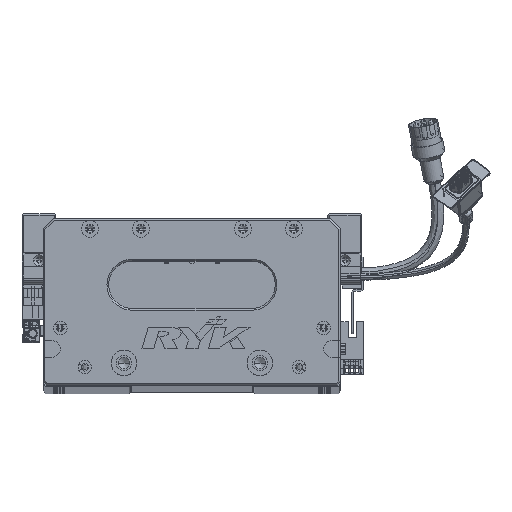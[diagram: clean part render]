
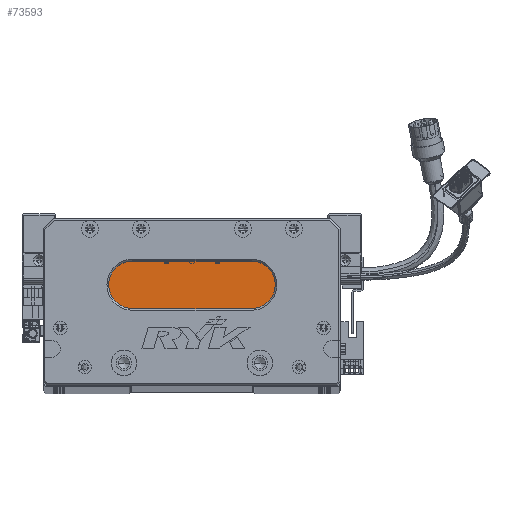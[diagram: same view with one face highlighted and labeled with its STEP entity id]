
A CAD part, top view. The second image highlights one B-rep face of the part: STEP entity #73593.
In plain terms, the highlighted planar face has unit normal (0, 0, 1) as drawn and (0, 0, -1) by its records, which use the part's own axes.
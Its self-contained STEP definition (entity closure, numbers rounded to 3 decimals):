
#3857 = DIRECTION ( 'NONE',  ( -1., 0., 0. ) ) ;
#4700 = ORIENTED_EDGE ( 'NONE', *, *, #30183, .T. ) ;
#8963 = AXIS2_PLACEMENT_3D ( 'NONE', #84995, #112813, #47746 ) ;
#11704 = CIRCLE ( 'NONE', #8963, 14. ) ;
#12116 = ORIENTED_EDGE ( 'NONE', *, *, #97174, .T. ) ;
#15443 = CARTESIAN_POINT ( 'NONE',  ( 122.5, 73., 18. ) ) ;
#15834 = DIRECTION ( 'NONE',  ( -1., 0., 0. ) ) ;
#16743 = CARTESIAN_POINT ( 'NONE',  ( 38.5, 59., 18. ) ) ;
#20576 = DIRECTION ( 'NONE',  ( 0., 0., -1. ) ) ;
#22900 = VERTEX_POINT ( 'NONE', #98822 ) ;
#23214 = DIRECTION ( 'NONE',  ( 1., 0., 0. ) ) ;
#23599 = CARTESIAN_POINT ( 'NONE',  ( 122.5, 73., 18. ) ) ;
#30183 = EDGE_CURVE ( 'NONE', #22900, #113264, #30998, .T. ) ;
#30998 = CIRCLE ( 'NONE', #81405, 14. ) ;
#37098 = LINE ( 'NONE', #58546, #107597 ) ;
#38669 = VERTEX_POINT ( 'NONE', #15443 ) ;
#40066 = CIRCLE ( 'NONE', #64284, 14. ) ;
#43525 = FACE_OUTER_BOUND ( 'NONE', #85784, .T. ) ;
#47746 = DIRECTION ( 'NONE',  ( -1., 0., 0. ) ) ;
#49887 = ORIENTED_EDGE ( 'NONE', *, *, #75385, .T. ) ;
#58546 = CARTESIAN_POINT ( 'NONE',  ( 122.5, 45., 18. ) ) ;
#60433 = ORIENTED_EDGE ( 'NONE', *, *, #86086, .T. ) ;
#62793 = DIRECTION ( 'NONE',  ( 0., 0., -1. ) ) ;
#63199 = CARTESIAN_POINT ( 'NONE',  ( 52.5, 73., 18. ) ) ;
#63603 = CARTESIAN_POINT ( 'NONE',  ( 122.5, 59., 18. ) ) ;
#64284 = AXIS2_PLACEMENT_3D ( 'NONE', #84457, #20576, #113060 ) ;
#65769 = AXIS2_PLACEMENT_3D ( 'NONE', #63603, #62793, #99039 ) ;
#73593 = ADVANCED_FACE ( 'NONE', ( #43525 ), #108262, .T. ) ;
#73816 = CARTESIAN_POINT ( 'NONE',  ( 122.5, 45., 18. ) ) ;
#75385 = EDGE_CURVE ( 'NONE', #38669, #95988, #11704, .T. ) ;
#78236 = LINE ( 'NONE', #23599, #94069 ) ;
#81405 = AXIS2_PLACEMENT_3D ( 'NONE', #88937, #117923, #15834 ) ;
#84457 = CARTESIAN_POINT ( 'NONE',  ( 52.5, 59., 18. ) ) ;
#84995 = CARTESIAN_POINT ( 'NONE',  ( 122.5, 59., 18. ) ) ;
#85784 = EDGE_LOOP ( 'NONE', ( #49887, #112196, #4700, #12116, #60433 ) ) ;
#86086 = EDGE_CURVE ( 'NONE', #99312, #38669, #78236, .T. ) ;
#88937 = CARTESIAN_POINT ( 'NONE',  ( 52.5, 59., 18. ) ) ;
#94069 = VECTOR ( 'NONE', #23214, 1000. ) ;
#95988 = VERTEX_POINT ( 'NONE', #73816 ) ;
#97174 = EDGE_CURVE ( 'NONE', #113264, #99312, #40066, .T. ) ;
#98233 = EDGE_CURVE ( 'NONE', #95988, #22900, #37098, .T. ) ;
#98822 = CARTESIAN_POINT ( 'NONE',  ( 52.5, 45., 18. ) ) ;
#99039 = DIRECTION ( 'NONE',  ( -1., 0., 0. ) ) ;
#99312 = VERTEX_POINT ( 'NONE', #63199 ) ;
#107597 = VECTOR ( 'NONE', #3857, 1000. ) ;
#108262 = PLANE ( 'NONE',  #65769 ) ;
#112196 = ORIENTED_EDGE ( 'NONE', *, *, #98233, .T. ) ;
#112813 = DIRECTION ( 'NONE',  ( 0., 0., -1. ) ) ;
#113060 = DIRECTION ( 'NONE',  ( -1., 0., 0. ) ) ;
#113264 = VERTEX_POINT ( 'NONE', #16743 ) ;
#117923 = DIRECTION ( 'NONE',  ( 0., 0., -1. ) ) ;
